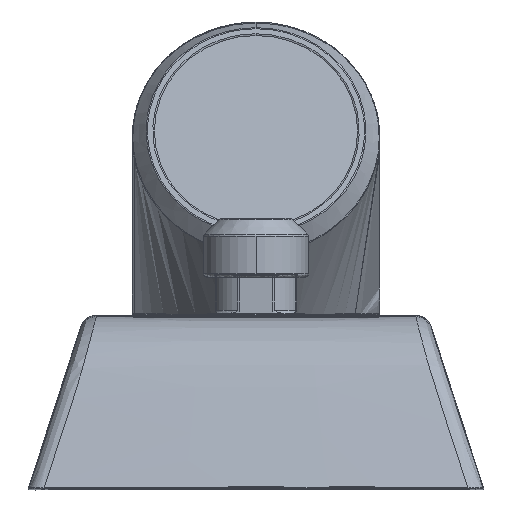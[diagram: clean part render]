
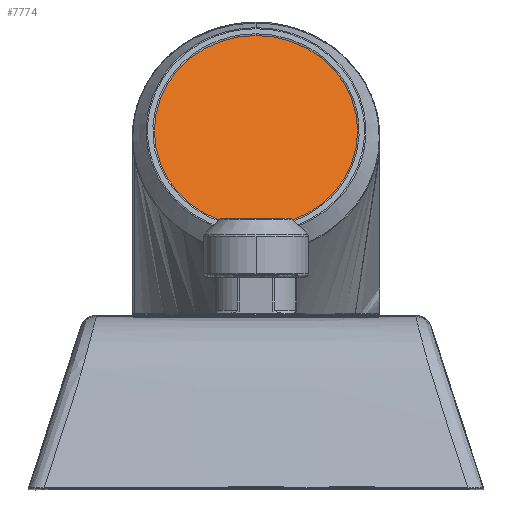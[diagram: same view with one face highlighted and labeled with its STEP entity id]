
A CAD part, front view. The second image highlights one B-rep face of the part: STEP entity #7774.
In plain terms, the highlighted planar face has unit normal (0, -0.94, 0.342).
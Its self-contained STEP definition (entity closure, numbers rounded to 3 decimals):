
#874 = CARTESIAN_POINT ( 'NONE',  ( 0., 1002.493, 141.143 ) ) ;
#2103 = AXIS2_PLACEMENT_3D ( 'NONE', #4582, #11585, #6947 ) ;
#2516 = PLANE ( 'NONE',  #2103 ) ;
#2786 = EDGE_LOOP ( 'NONE', ( #8634, #5891 ) ) ;
#4582 = CARTESIAN_POINT ( 'NONE',  ( 0., 1002.493, 141.143 ) ) ;
#4657 = FACE_OUTER_BOUND ( 'NONE', #2786, .T. ) ;
#5489 = CIRCLE ( 'NONE', #11074, 30.2 ) ;
#5891 = ORIENTED_EDGE ( 'NONE', *, *, #12401, .F. ) ;
#6947 = DIRECTION ( 'NONE',  ( 0., 0.342, 0.94 ) ) ;
#7746 = CARTESIAN_POINT ( 'NONE',  ( 0., 1012.822, 169.522 ) ) ;
#7774 = ADVANCED_FACE ( 'NONE', ( #4657 ), #2516, .F. ) ;
#8634 = ORIENTED_EDGE ( 'NONE', *, *, #14642, .F. ) ;
#9087 = VERTEX_POINT ( 'NONE', #13823 ) ;
#11074 = AXIS2_PLACEMENT_3D ( 'NONE', #874, #11146, #14657 ) ;
#11139 = AXIS2_PLACEMENT_3D ( 'NONE', #13853, #12708, #11561 ) ;
#11146 = DIRECTION ( 'NONE',  ( 0., 0.94, -0.342 ) ) ;
#11561 = DIRECTION ( 'NONE',  ( 0., 0.342, 0.94 ) ) ;
#11585 = DIRECTION ( 'NONE',  ( 0., 0.94, -0.342 ) ) ;
#12401 = EDGE_CURVE ( 'NONE', #13364, #9087, #13832, .T. ) ;
#12708 = DIRECTION ( 'NONE',  ( 0., 0.94, -0.342 ) ) ;
#13364 = VERTEX_POINT ( 'NONE', #7746 ) ;
#13823 = CARTESIAN_POINT ( 'NONE',  ( 0., 992.164, 112.765 ) ) ;
#13832 = CIRCLE ( 'NONE', #11139, 30.2 ) ;
#13853 = CARTESIAN_POINT ( 'NONE',  ( 0., 1002.493, 141.143 ) ) ;
#14642 = EDGE_CURVE ( 'NONE', #9087, #13364, #5489, .T. ) ;
#14657 = DIRECTION ( 'NONE',  ( 0., 0.342, 0.94 ) ) ;
